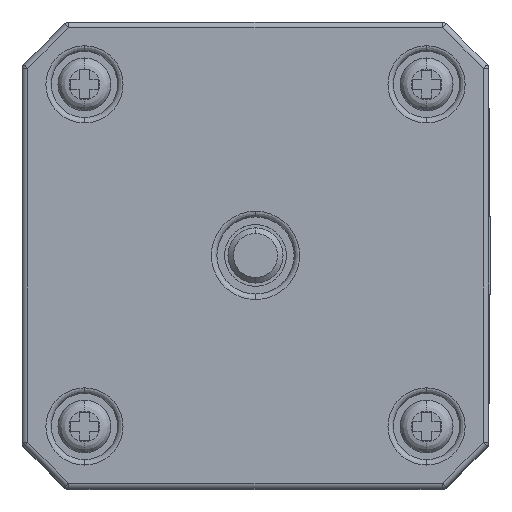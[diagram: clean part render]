
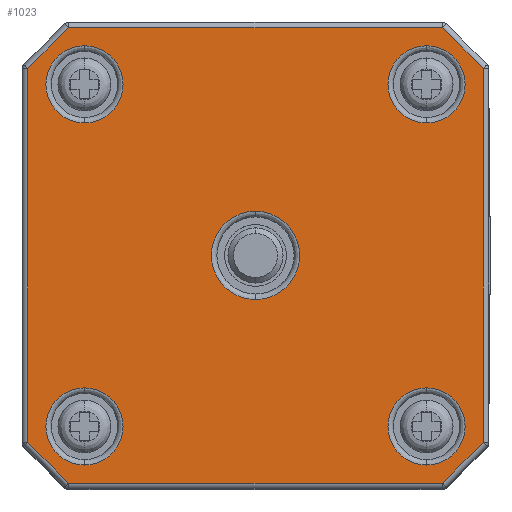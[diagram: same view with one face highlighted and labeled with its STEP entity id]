
A CAD part, top view. The second image highlights one B-rep face of the part: STEP entity #1023.
In plain terms, the highlighted planar face has unit normal (0, 0, 1).
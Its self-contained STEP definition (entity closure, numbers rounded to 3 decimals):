
#144=FACE_BOUND('',#3306,.T.);
#145=FACE_BOUND('',#3307,.T.);
#146=FACE_BOUND('',#3308,.T.);
#147=FACE_BOUND('',#3309,.T.);
#148=FACE_BOUND('',#3310,.T.);
#1023=ADVANCED_FACE('',(#2100,#144,#145,#146,#147,#148),#18421,.T.);
#2100=FACE_OUTER_BOUND('',#3305,.T.);
#3305=EDGE_LOOP('',(#8154,#8155,#8156,#8157,#8158,#8159,#8160,#8161));
#3306=EDGE_LOOP('',(#8162,#8163));
#3307=EDGE_LOOP('',(#8164,#8165));
#3308=EDGE_LOOP('',(#8166,#8167));
#3309=EDGE_LOOP('',(#8168,#8169));
#3310=EDGE_LOOP('',(#8170,#8171));
#8154=ORIENTED_EDGE('',*,*,#11488,.T.);
#8155=ORIENTED_EDGE('',*,*,#11672,.T.);
#8156=ORIENTED_EDGE('',*,*,#11489,.T.);
#8157=ORIENTED_EDGE('',*,*,#11658,.T.);
#8158=ORIENTED_EDGE('',*,*,#11490,.T.);
#8159=ORIENTED_EDGE('',*,*,#11641,.T.);
#8160=ORIENTED_EDGE('',*,*,#11491,.T.);
#8161=ORIENTED_EDGE('',*,*,#11656,.T.);
#8162=ORIENTED_EDGE('',*,*,#11320,.F.);
#8163=ORIENTED_EDGE('',*,*,#11632,.T.);
#8164=ORIENTED_EDGE('',*,*,#11633,.F.);
#8165=ORIENTED_EDGE('',*,*,#11316,.F.);
#8166=ORIENTED_EDGE('',*,*,#11634,.T.);
#8167=ORIENTED_EDGE('',*,*,#11312,.F.);
#8168=ORIENTED_EDGE('',*,*,#11635,.T.);
#8169=ORIENTED_EDGE('',*,*,#11308,.F.);
#8170=ORIENTED_EDGE('',*,*,#11636,.T.);
#8171=ORIENTED_EDGE('',*,*,#11304,.F.);
#11304=EDGE_CURVE('',#17130,#17131,#12756,.T.);
#11308=EDGE_CURVE('',#17134,#17135,#12760,.T.);
#11312=EDGE_CURVE('',#17138,#17139,#12764,.T.);
#11316=EDGE_CURVE('',#17142,#17143,#12768,.T.);
#11320=EDGE_CURVE('',#17146,#17147,#12772,.T.);
#11488=EDGE_CURVE('',#17278,#17279,#15437,.T.);
#11489=EDGE_CURVE('',#17280,#17281,#15438,.T.);
#11490=EDGE_CURVE('',#17282,#17283,#15439,.T.);
#11491=EDGE_CURVE('',#17284,#17285,#15440,.T.);
#11632=EDGE_CURVE('',#17146,#17147,#12840,.T.);
#11633=EDGE_CURVE('',#17143,#17142,#12841,.T.);
#11634=EDGE_CURVE('',#17138,#17139,#12842,.T.);
#11635=EDGE_CURVE('',#17134,#17135,#12843,.T.);
#11636=EDGE_CURVE('',#17130,#17131,#12844,.T.);
#11641=EDGE_CURVE('',#17283,#17284,#15560,.T.);
#11656=EDGE_CURVE('',#17285,#17278,#15561,.T.);
#11658=EDGE_CURVE('',#17281,#17282,#15562,.T.);
#11672=EDGE_CURVE('',#17279,#17280,#15563,.T.);
#12756=TRIMMED_CURVE($,#13761,(#33716),(#33717),.T.,.CARTESIAN.);
#12760=TRIMMED_CURVE($,#13765,(#33728),(#33729),.T.,.CARTESIAN.);
#12764=TRIMMED_CURVE($,#13769,(#33740),(#33741),.T.,.CARTESIAN.);
#12768=TRIMMED_CURVE($,#13773,(#33752),(#33753),.T.,.CARTESIAN.);
#12772=TRIMMED_CURVE($,#13777,(#33764),(#33765),.T.,.CARTESIAN.);
#12840=TRIMMED_CURVE($,#13845,(#34456),(#34457),.T.,.CARTESIAN.);
#12841=TRIMMED_CURVE($,#13846,(#34459),(#34460),.T.,.CARTESIAN.);
#12842=TRIMMED_CURVE($,#13847,(#34462),(#34463),.T.,.CARTESIAN.);
#12843=TRIMMED_CURVE($,#13848,(#34465),(#34466),.T.,.CARTESIAN.);
#12844=TRIMMED_CURVE($,#13849,(#34468),(#34469),.T.,.CARTESIAN.);
#13761=CIRCLE('',#20327,3.5);
#13765=CIRCLE('',#20331,3.5);
#13769=CIRCLE('',#20335,3.5);
#13773=CIRCLE('',#20339,3.5);
#13777=CIRCLE('',#20343,4.);
#13845=CIRCLE('',#20411,4.);
#13846=CIRCLE('',#20412,3.5);
#13847=CIRCLE('',#20413,3.5);
#13848=CIRCLE('',#20414,3.5);
#13849=CIRCLE('',#20415,3.5);
#15437=B_SPLINE_CURVE_WITH_KNOTS('',1,(#34146,#34147),.UNSPECIFIED.,.F.,
 .F.,(2,2),(0.,33.886),.UNSPECIFIED.);
#15438=B_SPLINE_CURVE_WITH_KNOTS('',1,(#34148,#34149),.UNSPECIFIED.,.F.,
 .F.,(2,2),(0.,33.886),.UNSPECIFIED.);
#15439=B_SPLINE_CURVE_WITH_KNOTS('',1,(#34150,#34151),.UNSPECIFIED.,.F.,
 .F.,(2,2),(0.,33.886),.UNSPECIFIED.);
#15440=B_SPLINE_CURVE_WITH_KNOTS('',1,(#34152,#34153),.UNSPECIFIED.,.F.,
 .F.,(2,2),(0.,33.886),.UNSPECIFIED.);
#15560=B_SPLINE_CURVE_WITH_KNOTS('',1,(#34482,#34483),.UNSPECIFIED.,.F.,
 .F.,(2,2),(-5.243,0.),.UNSPECIFIED.);
#15561=B_SPLINE_CURVE_WITH_KNOTS('',1,(#34526,#34527),.UNSPECIFIED.,.F.,
 .F.,(2,2),(-5.243,0.),.UNSPECIFIED.);
#15562=B_SPLINE_CURVE_WITH_KNOTS('',1,(#34531,#34532),.UNSPECIFIED.,.F.,
 .F.,(2,2),(-5.243,0.),.UNSPECIFIED.);
#15563=B_SPLINE_CURVE_WITH_KNOTS('',1,(#34572,#34573),.UNSPECIFIED.,.F.,
 .F.,(2,2),(-5.243,0.),.UNSPECIFIED.);
#17130=VERTEX_POINT('',#27301);
#17131=VERTEX_POINT('',#27302);
#17134=VERTEX_POINT('',#27305);
#17135=VERTEX_POINT('',#27306);
#17138=VERTEX_POINT('',#27309);
#17139=VERTEX_POINT('',#27310);
#17142=VERTEX_POINT('',#27313);
#17143=VERTEX_POINT('',#27314);
#17146=VERTEX_POINT('',#27317);
#17147=VERTEX_POINT('',#27318);
#17278=VERTEX_POINT('',#27449);
#17279=VERTEX_POINT('',#27450);
#17280=VERTEX_POINT('',#27451);
#17281=VERTEX_POINT('',#27452);
#17282=VERTEX_POINT('',#27453);
#17283=VERTEX_POINT('',#27454);
#17284=VERTEX_POINT('',#27455);
#17285=VERTEX_POINT('',#27456);
#18421=PLANE('',#19381);
#19381=AXIS2_PLACEMENT_3D('',#25391,#21323,$);
#20327=AXIS2_PLACEMENT_3D($,#33715,#23064,#23065);
#20331=AXIS2_PLACEMENT_3D($,#33727,#23072,#23073);
#20335=AXIS2_PLACEMENT_3D($,#33739,#23080,#23081);
#20339=AXIS2_PLACEMENT_3D($,#33751,#23088,#23089);
#20343=AXIS2_PLACEMENT_3D($,#33763,#23096,#23097);
#20411=AXIS2_PLACEMENT_3D($,#34455,#23232,#23233);
#20412=AXIS2_PLACEMENT_3D($,#34458,#23234,#23235);
#20413=AXIS2_PLACEMENT_3D($,#34461,#23236,#23237);
#20414=AXIS2_PLACEMENT_3D($,#34464,#23238,#23239);
#20415=AXIS2_PLACEMENT_3D($,#34467,#23240,#23241);
#21323=DIRECTION('',(0.,0.,1.));
#23064=DIRECTION('',(0.,0.,1.));
#23065=DIRECTION('',(0.,1.,0.));
#23072=DIRECTION('',(0.,0.,1.));
#23073=DIRECTION('',(0.,1.,0.));
#23080=DIRECTION('',(0.,0.,1.));
#23081=DIRECTION('',(0.,1.,0.));
#23088=DIRECTION('',(0.,0.,1.));
#23089=DIRECTION('',(0.,1.,0.));
#23096=DIRECTION('',(0.,0.,1.));
#23097=DIRECTION('',(0.,1.,0.));
#23232=DIRECTION('',(0.,0.,-1.));
#23233=DIRECTION('',(0.,1.,0.));
#23234=DIRECTION('',(0.,0.,1.));
#23235=DIRECTION('',(0.,-1.,0.));
#23236=DIRECTION('',(0.,0.,-1.));
#23237=DIRECTION('',(0.,1.,0.));
#23238=DIRECTION('',(0.,0.,-1.));
#23239=DIRECTION('',(0.,1.,0.));
#23240=DIRECTION('',(0.,0.,-1.));
#23241=DIRECTION('',(0.,1.,0.));
#25391=CARTESIAN_POINT('',(-20.65,-20.65,199.));
#27301=CARTESIAN_POINT('',(15.5,19.,199.));
#27302=CARTESIAN_POINT('',(15.5,12.,199.));
#27305=CARTESIAN_POINT('',(15.5,-12.,199.));
#27306=CARTESIAN_POINT('',(15.5,-19.,199.));
#27309=CARTESIAN_POINT('',(-15.5,-12.,199.));
#27310=CARTESIAN_POINT('',(-15.5,-19.,199.));
#27313=CARTESIAN_POINT('',(-15.5,19.,199.));
#27314=CARTESIAN_POINT('',(-15.5,12.,199.));
#27317=CARTESIAN_POINT('',(0.,4.,199.));
#27318=CARTESIAN_POINT('',(0.,-4.,199.));
#27449=CARTESIAN_POINT('',(20.65,-16.943,199.));
#27450=CARTESIAN_POINT('',(20.65,16.943,199.));
#27451=CARTESIAN_POINT('',(16.943,20.65,199.));
#27452=CARTESIAN_POINT('',(-16.943,20.65,199.));
#27453=CARTESIAN_POINT('',(-20.65,16.943,199.));
#27454=CARTESIAN_POINT('',(-20.65,-16.943,199.));
#27455=CARTESIAN_POINT('',(-16.943,-20.65,199.));
#27456=CARTESIAN_POINT('',(16.943,-20.65,199.));
#33715=CARTESIAN_POINT('',(15.5,15.5,199.));
#33716=CARTESIAN_POINT('',(15.5,19.,199.));
#33717=CARTESIAN_POINT('',(15.5,12.,199.));
#33727=CARTESIAN_POINT('',(15.5,-15.5,199.));
#33728=CARTESIAN_POINT('',(15.5,-12.,199.));
#33729=CARTESIAN_POINT('',(15.5,-19.,199.));
#33739=CARTESIAN_POINT('',(-15.5,-15.5,199.));
#33740=CARTESIAN_POINT('',(-15.5,-12.,199.));
#33741=CARTESIAN_POINT('',(-15.5,-19.,199.));
#33751=CARTESIAN_POINT('',(-15.5,15.5,199.));
#33752=CARTESIAN_POINT('',(-15.5,19.,199.));
#33753=CARTESIAN_POINT('',(-15.5,12.,199.));
#33763=CARTESIAN_POINT('',(0.,0.,199.));
#33764=CARTESIAN_POINT('',(0.,4.,199.));
#33765=CARTESIAN_POINT('',(0.,-4.,199.));
#34146=CARTESIAN_POINT('',(20.65,-16.943,199.));
#34147=CARTESIAN_POINT('',(20.65,16.943,199.));
#34148=CARTESIAN_POINT('',(16.943,20.65,199.));
#34149=CARTESIAN_POINT('',(-16.943,20.65,199.));
#34150=CARTESIAN_POINT('',(-20.65,16.943,199.));
#34151=CARTESIAN_POINT('',(-20.65,-16.943,199.));
#34152=CARTESIAN_POINT('',(-16.943,-20.65,199.));
#34153=CARTESIAN_POINT('',(16.943,-20.65,199.));
#34455=CARTESIAN_POINT('',(0.,0.,199.));
#34456=CARTESIAN_POINT('',(0.,4.,199.));
#34457=CARTESIAN_POINT('',(0.,-4.,199.));
#34458=CARTESIAN_POINT('',(-15.5,15.5,199.));
#34459=CARTESIAN_POINT('',(-15.5,12.,199.));
#34460=CARTESIAN_POINT('',(-15.5,19.,199.));
#34461=CARTESIAN_POINT('',(-15.5,-15.5,199.));
#34462=CARTESIAN_POINT('',(-15.5,-12.,199.));
#34463=CARTESIAN_POINT('',(-15.5,-19.,199.));
#34464=CARTESIAN_POINT('',(15.5,-15.5,199.));
#34465=CARTESIAN_POINT('',(15.5,-12.,199.));
#34466=CARTESIAN_POINT('',(15.5,-19.,199.));
#34467=CARTESIAN_POINT('',(15.5,15.5,199.));
#34468=CARTESIAN_POINT('',(15.5,19.,199.));
#34469=CARTESIAN_POINT('',(15.5,12.,199.));
#34482=CARTESIAN_POINT('',(-20.65,-16.943,199.));
#34483=CARTESIAN_POINT('',(-16.943,-20.65,199.));
#34526=CARTESIAN_POINT('',(16.943,-20.65,199.));
#34527=CARTESIAN_POINT('',(20.65,-16.943,199.));
#34531=CARTESIAN_POINT('',(-16.943,20.65,199.));
#34532=CARTESIAN_POINT('',(-20.65,16.943,199.));
#34572=CARTESIAN_POINT('',(20.65,16.943,199.));
#34573=CARTESIAN_POINT('',(16.943,20.65,199.));
